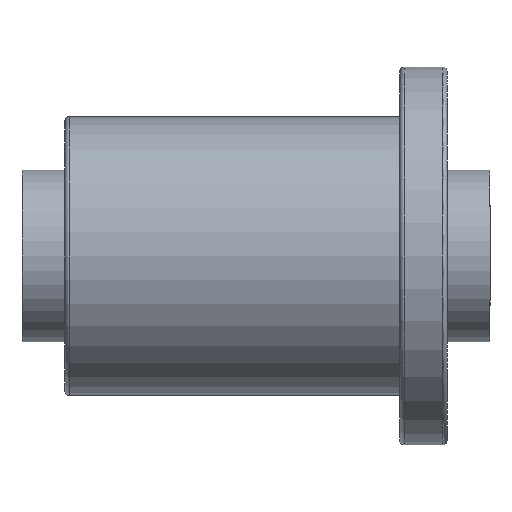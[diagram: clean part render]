
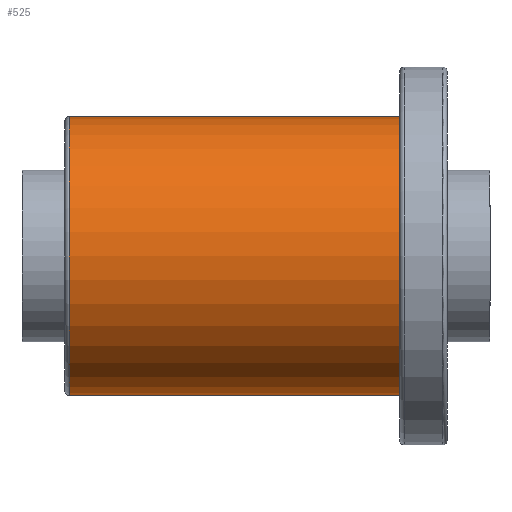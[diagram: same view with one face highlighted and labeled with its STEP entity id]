
A CAD part, front view. The second image highlights one B-rep face of the part: STEP entity #525.
In plain terms, the highlighted cylindrical face has radius 65 mm (diameter 130 mm), a full revolution.
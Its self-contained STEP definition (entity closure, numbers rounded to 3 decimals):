
#127=ORIENTED_EDGE('',*,*,#217,.T.);
#128=ORIENTED_EDGE('',*,*,#218,.F.);
#217=EDGE_CURVE('',#269,#269,#310,.T.);
#218=EDGE_CURVE('',#270,#270,#311,.T.);
#269=VERTEX_POINT('',#925);
#270=VERTEX_POINT('',#927);
#310=CIRCLE('',#622,65.);
#311=CIRCLE('',#623,65.);
#365=EDGE_LOOP('',(#127));
#366=EDGE_LOOP('',(#128));
#446=FACE_BOUND('',#365,.T.);
#447=FACE_BOUND('',#366,.T.);
#497=CYLINDRICAL_SURFACE('',#621,65.);
#525=ADVANCED_FACE('',(#446,#447),#497,.T.);
#621=AXIS2_PLACEMENT_3D('',#923,#758,#759);
#622=AXIS2_PLACEMENT_3D('',#924,#760,#761);
#623=AXIS2_PLACEMENT_3D('',#926,#762,#763);
#758=DIRECTION('',(1.,0.,0.));
#759=DIRECTION('',(0.,-1.,0.));
#760=DIRECTION('',(1.,0.,0.));
#761=DIRECTION('',(0.,1.,0.));
#762=DIRECTION('',(1.,0.,0.));
#763=DIRECTION('',(0.,1.,0.));
#923=CARTESIAN_POINT('',(-140.,0.,0.));
#924=CARTESIAN_POINT('',(-193.5,0.,0.));
#925=CARTESIAN_POINT('',(-193.5,65.,0.));
#926=CARTESIAN_POINT('',(-39.5,0.,0.));
#927=CARTESIAN_POINT('',(-39.5,65.,0.));
